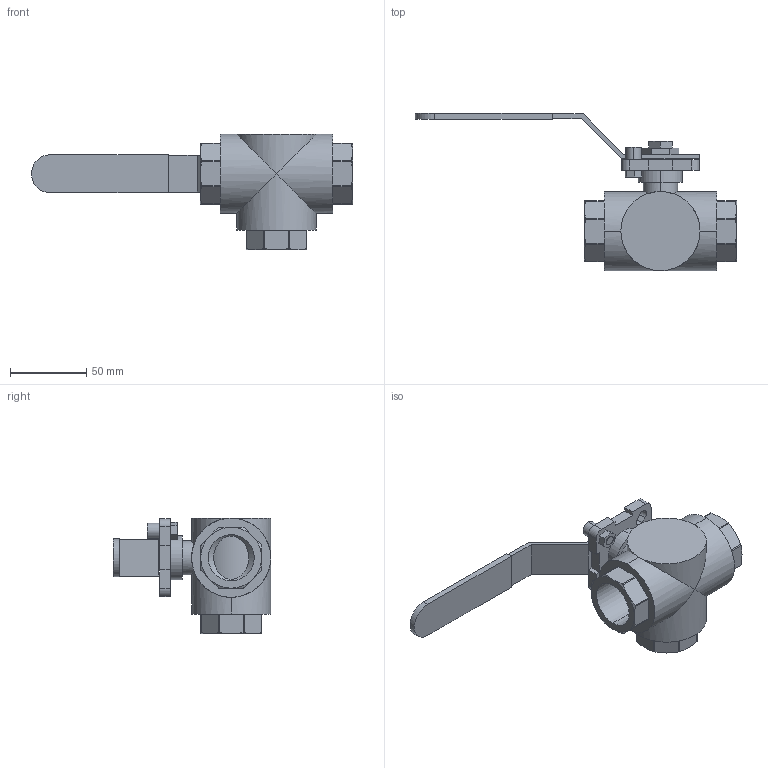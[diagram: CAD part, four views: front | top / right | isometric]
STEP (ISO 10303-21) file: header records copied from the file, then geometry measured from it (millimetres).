
FILE_DESCRIPTION (( 'STEP AP203' ), '1' );
FILE_NAME ('04.622I025IFVPB0.STEP', '2018-10-05T13:20:13', ( '' ), ( '' ), 'SwSTEP 2.0', 'SolidWorks 2014', '' );
FILE_SCHEMA (( 'CONFIG_CONTROL_DESIGN' ));
Length unit declared in the file: millimetre
Products named in the file (1): 04.622I025IFVPB0
Bounding box: 211 x 103.5 x 76 mm (x, y, z)
Volume: 238335.8 mm3; surface area: 51011.2 mm2
Topology: 1 solids, 1 shells, 202 faces, 515 edges, 329 vertices
Faces by surface type: plane 103, cylinder 69, cone 30
Entity records: 6694 total; most frequent: CARTESIAN_POINT 1727, ORIENTED_EDGE 1030, DIRECTION 999, EDGE_CURVE 515, AXIS2_PLACEMENT_3D 349, VERTEX_POINT 329, VECTOR 301, LINE 301
